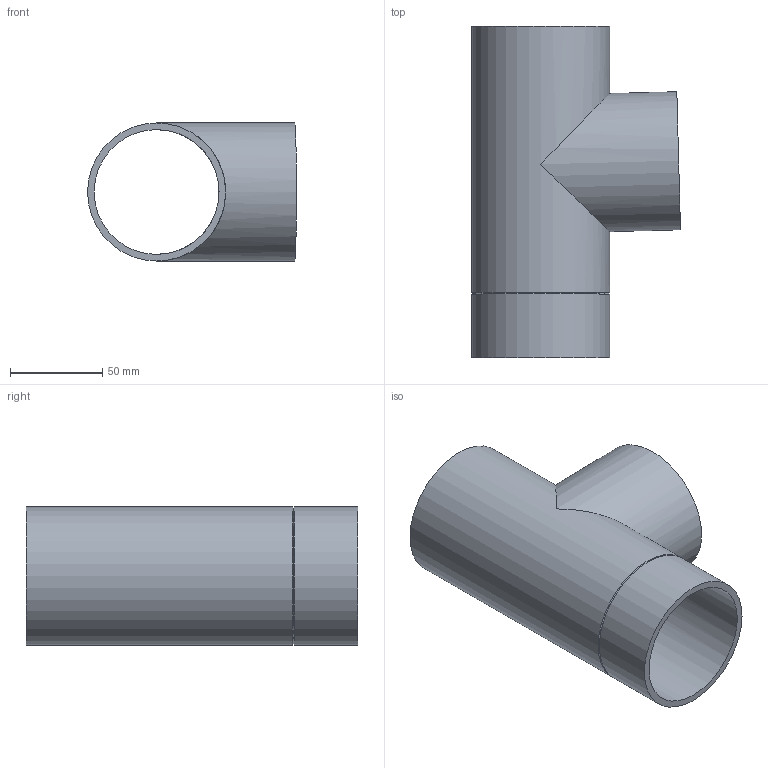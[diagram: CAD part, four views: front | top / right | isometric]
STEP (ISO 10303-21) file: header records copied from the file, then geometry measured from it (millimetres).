
FILE_DESCRIPTION(/* description */ (''),/* implementation_level */ '2;1');
FILE_NAME(/* name */ 'C:\Geberit-Teile\Export 2019\307.078.14.1\stp\307078.stp',/* time_stamp */ '2019-05-09T13:36:17+02:00',/* author */ ('JANAN'),/* organization */ (''),/* preprocessor_version */ 'ST-DEVELOPER v16.13',/* originating_system */ 'Autodesk Inventor 2018',/* authorisation */ '');
FILE_SCHEMA (('AUTOMOTIVE_DESIGN { 1 0 10303 214 3 1 1 }'));
Length unit declared in the file: millimetre
Products named in the file (1): Abzweig PE-S2 88.5G d75/75
Bounding box: 113.46 x 180 x 75 mm (x, y, z)
Volume: 169091.3 mm3; surface area: 96569.8 mm2
Topology: 1 solids, 1 shells, 10 faces, 25 edges, 17 vertices
Faces by surface type: cylinder 5, plane 3, cone 2
Full cylindrical faces by diameter (mm): 67.8 x2, 75 x3
Entity records: 298 total; most frequent: DIRECTION 48, CARTESIAN_POINT 37, ORIENTED_EDGE 26, AXIS2_PLACEMENT_3D 24, EDGE_LOOP 22, VERTEX_POINT 13, EDGE_CURVE 13, FACE_BOUND 12
